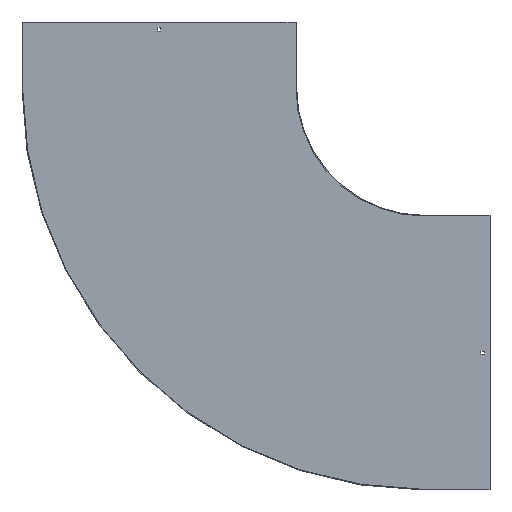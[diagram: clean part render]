
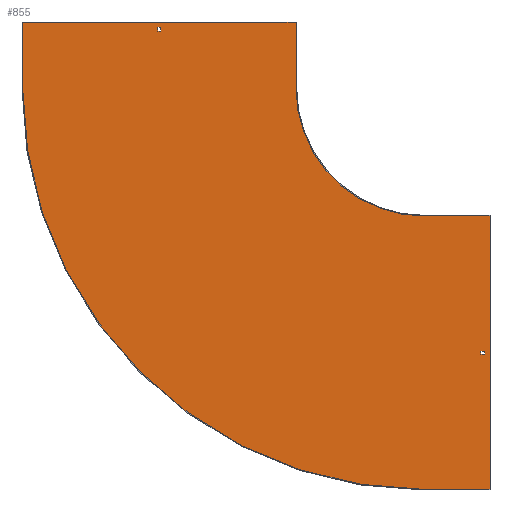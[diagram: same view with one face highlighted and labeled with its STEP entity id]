
A CAD part, front view. The second image highlights one B-rep face of the part: STEP entity #855.
In plain terms, the highlighted planar face has unit normal (0, -1, 0).
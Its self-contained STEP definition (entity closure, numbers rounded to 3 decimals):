
#2 = DIRECTION ( 'NONE',  ( 0., 0., -1. ) ) ;
#4 = ORIENTED_EDGE ( 'NONE', *, *, #35, .F. ) ;
#6 = EDGE_CURVE ( 'NONE', #547, #38, #636, .T. ) ;
#10 = EDGE_LOOP ( 'NONE', ( #440, #571, #401, #591 ) ) ;
#17 = CARTESIAN_POINT ( 'NONE',  ( 0., -1.5, 0. ) ) ;
#24 = EDGE_CURVE ( 'NONE', #453, #123, #860, .T. ) ;
#27 = VECTOR ( 'NONE', #695, 1000. ) ;
#35 = EDGE_CURVE ( 'NONE', #618, #547, #473, .T. ) ;
#38 = VERTEX_POINT ( 'NONE', #655 ) ;
#57 = ORIENTED_EDGE ( 'NONE', *, *, #827, .F. ) ;
#61 = CARTESIAN_POINT ( 'NONE',  ( 129., -1.5, -603.25 ) ) ;
#69 = VERTEX_POINT ( 'NONE', #861 ) ;
#83 = ORIENTED_EDGE ( 'NONE', *, *, #593, .F. ) ;
#87 = CARTESIAN_POINT ( 'NONE',  ( -603.25, -1.5, 129. ) ) ;
#89 = VECTOR ( 'NONE', #2, 1000. ) ;
#90 = VECTOR ( 'NONE', #389, 1000. ) ;
#102 = EDGE_CURVE ( 'NONE', #38, #248, #665, .T. ) ;
#104 = VECTOR ( 'NONE', #395, 1000. ) ;
#107 = EDGE_CURVE ( 'NONE', #637, #388, #213, .T. ) ;
#117 = VERTEX_POINT ( 'NONE', #87 ) ;
#118 = LINE ( 'NONE', #310, #27 ) ;
#123 = VERTEX_POINT ( 'NONE', #612 ) ;
#135 = VERTEX_POINT ( 'NONE', #149 ) ;
#138 = EDGE_LOOP ( 'NONE', ( #769, #188, #57, #299, #507, #832, #382, #4 ) ) ;
#141 = CARTESIAN_POINT ( 'NONE',  ( 150., -1.5, -910. ) ) ;
#149 = CARTESIAN_POINT ( 'NONE',  ( -910., -1.5, 0. ) ) ;
#165 = CARTESIAN_POINT ( 'NONE',  ( 0., -1.5, -596.75 ) ) ;
#167 = DIRECTION ( 'NONE',  ( 0., 0., 1. ) ) ;
#182 = DIRECTION ( 'NONE',  ( 1., 0., 0. ) ) ;
#183 = LINE ( 'NONE', #752, #563 ) ;
#188 = ORIENTED_EDGE ( 'NONE', *, *, #287, .F. ) ;
#202 = CARTESIAN_POINT ( 'NONE',  ( 138., -1.5, -596.75 ) ) ;
#207 = DIRECTION ( 'NONE',  ( 0., 0., -1. ) ) ;
#211 = LINE ( 'NONE', #784, #254 ) ;
#213 = LINE ( 'NONE', #141, #727 ) ;
#218 = VECTOR ( 'NONE', #848, 1000. ) ;
#242 = CARTESIAN_POINT ( 'NONE',  ( 0., -1.5, -603.25 ) ) ;
#244 = EDGE_LOOP ( 'NONE', ( #575, #83, #369, #652 ) ) ;
#246 = LINE ( 'NONE', #242, #379 ) ;
#248 = VERTEX_POINT ( 'NONE', #483 ) ;
#254 = VECTOR ( 'NONE', #467, 1000. ) ;
#256 = AXIS2_PLACEMENT_3D ( 'NONE', #569, #857, #523 ) ;
#274 = CARTESIAN_POINT ( 'NONE',  ( -596.75, -1.5, 0. ) ) ;
#281 = VECTOR ( 'NONE', #596, 1000. ) ;
#287 = EDGE_CURVE ( 'NONE', #135, #756, #290, .T. ) ;
#289 = CARTESIAN_POINT ( 'NONE',  ( -290., -1.5, 150. ) ) ;
#290 = LINE ( 'NONE', #746, #757 ) ;
#299 = ORIENTED_EDGE ( 'NONE', *, *, #107, .F. ) ;
#310 = CARTESIAN_POINT ( 'NONE',  ( -911.5, -1.5, 150. ) ) ;
#315 = EDGE_CURVE ( 'NONE', #69, #453, #183, .T. ) ;
#316 = FACE_BOUND ( 'NONE', #244, .T. ) ;
#346 = DIRECTION ( 'NONE',  ( 0., 0., -1. ) ) ;
#348 = EDGE_CURVE ( 'NONE', #756, #618, #118, .T. ) ;
#350 = DIRECTION ( 'NONE',  ( 0., -1., 0. ) ) ;
#366 = VECTOR ( 'NONE', #516, 1000. ) ;
#369 = ORIENTED_EDGE ( 'NONE', *, *, #762, .F. ) ;
#379 = VECTOR ( 'NONE', #182, 1000. ) ;
#382 = ORIENTED_EDGE ( 'NONE', *, *, #6, .F. ) ;
#388 = VERTEX_POINT ( 'NONE', #567 ) ;
#389 = DIRECTION ( 'NONE',  ( 0., 0., -1. ) ) ;
#392 = LINE ( 'NONE', #403, #218 ) ;
#395 = DIRECTION ( 'NONE',  ( 0., 0., -1. ) ) ;
#401 = ORIENTED_EDGE ( 'NONE', *, *, #850, .T. ) ;
#403 = CARTESIAN_POINT ( 'NONE',  ( 129., -1.5, 0. ) ) ;
#408 = CARTESIAN_POINT ( 'NONE',  ( -290., -1.5, 150. ) ) ;
#409 = DIRECTION ( 'NONE',  ( -1., 0., 0. ) ) ;
#411 = VERTEX_POINT ( 'NONE', #202 ) ;
#413 = LINE ( 'NONE', #605, #788 ) ;
#419 = DIRECTION ( 'NONE',  ( -1., 0., 0. ) ) ;
#425 = VECTOR ( 'NONE', #419, 1000. ) ;
#432 = CARTESIAN_POINT ( 'NONE',  ( 138., -1.5, -603.25 ) ) ;
#440 = ORIENTED_EDGE ( 'NONE', *, *, #315, .T. ) ;
#450 = DIRECTION ( 'NONE',  ( 0., -1., 0. ) ) ;
#453 = VERTEX_POINT ( 'NONE', #843 ) ;
#458 = EDGE_CURVE ( 'NONE', #248, #637, #525, .T. ) ;
#459 = AXIS2_PLACEMENT_3D ( 'NONE', #17, #350, #346 ) ;
#467 = DIRECTION ( 'NONE',  ( 0., 0., 1. ) ) ;
#472 = EDGE_CURVE ( 'NONE', #117, #69, #211, .T. ) ;
#473 = LINE ( 'NONE', #408, #104 ) ;
#480 = AXIS2_PLACEMENT_3D ( 'NONE', #837, #450, #207 ) ;
#483 = CARTESIAN_POINT ( 'NONE',  ( 150., -1.5, -290. ) ) ;
#490 = EDGE_CURVE ( 'NONE', #781, #521, #392, .T. ) ;
#507 = ORIENTED_EDGE ( 'NONE', *, *, #458, .F. ) ;
#516 = DIRECTION ( 'NONE',  ( -1., 0., 0. ) ) ;
#521 = VERTEX_POINT ( 'NONE', #61 ) ;
#523 = DIRECTION ( 'NONE',  ( 0., 0., -1. ) ) ;
#525 = LINE ( 'NONE', #528, #90 ) ;
#528 = CARTESIAN_POINT ( 'NONE',  ( 150., -1.5, -288.5 ) ) ;
#529 = CARTESIAN_POINT ( 'NONE',  ( 0., -1.5, -290. ) ) ;
#544 = CARTESIAN_POINT ( 'NONE',  ( -290., -1.5, 0. ) ) ;
#547 = VERTEX_POINT ( 'NONE', #544 ) ;
#552 = CIRCLE ( 'NONE', #256, 910. ) ;
#563 = VECTOR ( 'NONE', #630, 1000. ) ;
#567 = CARTESIAN_POINT ( 'NONE',  ( 0., -1.5, -910. ) ) ;
#569 = CARTESIAN_POINT ( 'NONE',  ( 0., -1.5, 0. ) ) ;
#571 = ORIENTED_EDGE ( 'NONE', *, *, #24, .T. ) ;
#572 = FACE_BOUND ( 'NONE', #10, .T. ) ;
#575 = ORIENTED_EDGE ( 'NONE', *, *, #597, .F. ) ;
#591 = ORIENTED_EDGE ( 'NONE', *, *, #472, .T. ) ;
#593 = EDGE_CURVE ( 'NONE', #741, #411, #413, .T. ) ;
#596 = DIRECTION ( 'NONE',  ( 1., 0., 0. ) ) ;
#597 = EDGE_CURVE ( 'NONE', #411, #781, #814, .T. ) ;
#605 = CARTESIAN_POINT ( 'NONE',  ( 138., -1.5, 0. ) ) ;
#612 = CARTESIAN_POINT ( 'NONE',  ( -596.75, -1.5, 129. ) ) ;
#618 = VERTEX_POINT ( 'NONE', #289 ) ;
#630 = DIRECTION ( 'NONE',  ( 1., 0., 0. ) ) ;
#636 = CIRCLE ( 'NONE', #459, 290. ) ;
#637 = VERTEX_POINT ( 'NONE', #664 ) ;
#641 = CARTESIAN_POINT ( 'NONE',  ( 0., -1.5, 129. ) ) ;
#652 = ORIENTED_EDGE ( 'NONE', *, *, #490, .F. ) ;
#655 = CARTESIAN_POINT ( 'NONE',  ( 0., -1.5, -290. ) ) ;
#664 = CARTESIAN_POINT ( 'NONE',  ( 150., -1.5, -910. ) ) ;
#665 = LINE ( 'NONE', #529, #281 ) ;
#687 = CARTESIAN_POINT ( 'NONE',  ( -910., -1.5, 150. ) ) ;
#695 = DIRECTION ( 'NONE',  ( 1., 0., 0. ) ) ;
#727 = VECTOR ( 'NONE', #409, 1000. ) ;
#729 = DIRECTION ( 'NONE',  ( 0., 0., 1. ) ) ;
#741 = VERTEX_POINT ( 'NONE', #432 ) ;
#746 = CARTESIAN_POINT ( 'NONE',  ( -910., -1.5, 0. ) ) ;
#752 = CARTESIAN_POINT ( 'NONE',  ( 0., -1.5, 138. ) ) ;
#756 = VERTEX_POINT ( 'NONE', #687 ) ;
#757 = VECTOR ( 'NONE', #167, 1000. ) ;
#762 = EDGE_CURVE ( 'NONE', #521, #741, #246, .T. ) ;
#769 = ORIENTED_EDGE ( 'NONE', *, *, #348, .F. ) ;
#781 = VERTEX_POINT ( 'NONE', #825 ) ;
#782 = PLANE ( 'NONE',  #480 ) ;
#784 = CARTESIAN_POINT ( 'NONE',  ( -603.25, -1.5, 0. ) ) ;
#788 = VECTOR ( 'NONE', #729, 1000. ) ;
#789 = FACE_OUTER_BOUND ( 'NONE', #138, .T. ) ;
#814 = LINE ( 'NONE', #165, #425 ) ;
#825 = CARTESIAN_POINT ( 'NONE',  ( 129., -1.5, -596.75 ) ) ;
#827 = EDGE_CURVE ( 'NONE', #388, #135, #552, .T. ) ;
#832 = ORIENTED_EDGE ( 'NONE', *, *, #102, .F. ) ;
#837 = CARTESIAN_POINT ( 'NONE',  ( 0., -1.5, 0. ) ) ;
#843 = CARTESIAN_POINT ( 'NONE',  ( -596.75, -1.5, 138. ) ) ;
#847 = LINE ( 'NONE', #641, #366 ) ;
#848 = DIRECTION ( 'NONE',  ( 0., 0., -1. ) ) ;
#850 = EDGE_CURVE ( 'NONE', #123, #117, #847, .T. ) ;
#855 = ADVANCED_FACE ( 'NONE', ( #316, #789, #572 ), #782, .T. ) ;
#857 = DIRECTION ( 'NONE',  ( 0., 1., 0. ) ) ;
#860 = LINE ( 'NONE', #274, #89 ) ;
#861 = CARTESIAN_POINT ( 'NONE',  ( -603.25, -1.5, 138. ) ) ;
